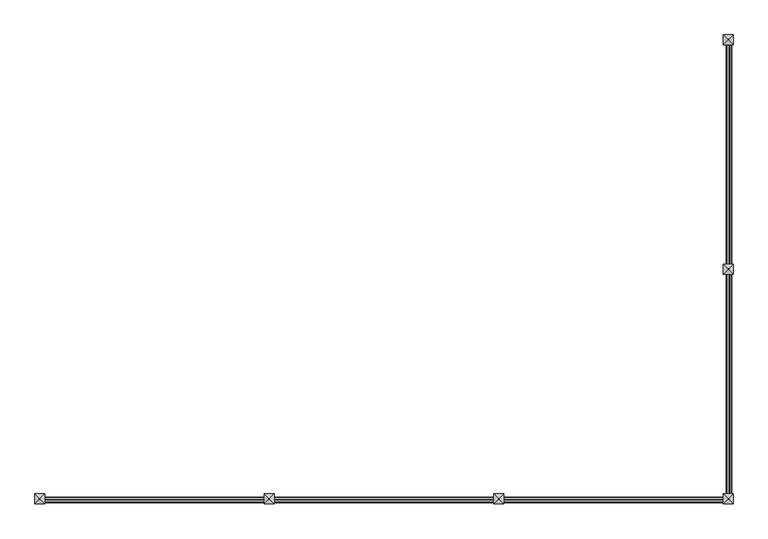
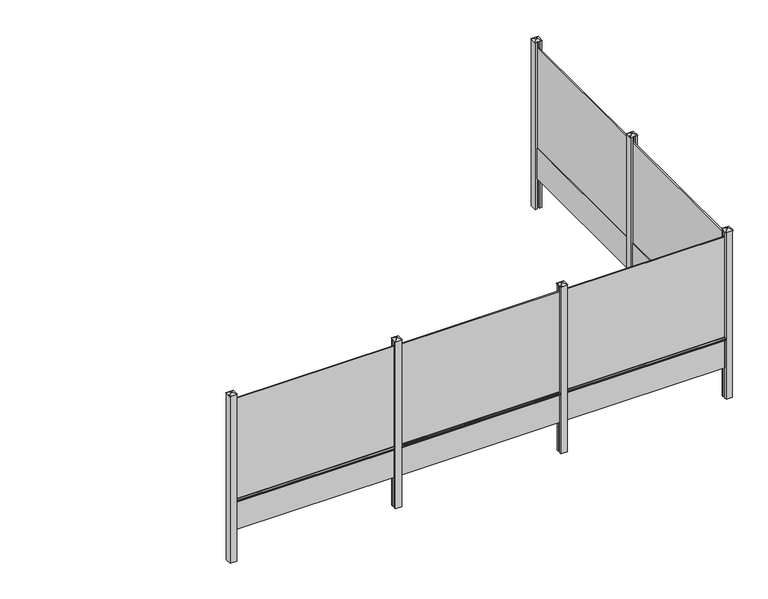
"""IFC4 building model written with IfcOpenShell, lengths in millimetres: railing geometry, Mehat - Railing - Plaque de Soubassement - Classique pour clôture rigide - 252.5x50x3.8/1.9 cm."""

from ifc_helpers import new_model, si_unit, point, frame, frame_2d, origin, origin_with_axes, place, context, project, spatial, polyline, circle_curve, trimmed, segment, composite_curve, outline, extrude, faceted_brep, source, transform, mapped, element, save


def railing_939d0e2e(model_context):
    return source(origin(), model_context, "Body", "SolidModel", [
        extrude(outline(polyline([(167896.2516516, -11002.4943936), (167879.2516516, -11002.4943936), (167879.2516516, -8477.4943936), (167896.2516516, -8477.4943936), (167896.2516516, -11002.4943936)])), frame((0.0, 0.0, 500.0), z_axis=(0.0, 0.0, 1.0), x_axis=(1.0, 0.0, 0.0)), (0.0, 0.0, 1.0), 1650.0),
        extrude(outline(polyline([(167868.7516516, -8477.4943936), (167887.7516516, -8477.4943936), (167906.7516516, -8502.4943936), (167906.7516516, -10977.4943936), (167887.7516516, -11002.4943936), (167868.7516516, -11002.4943936), (167868.7516516, -8477.4943936)])), origin_with_axes(), (0.0, 0.0, 1.0), 500.0),
        extrude(outline(composite_curve([segment(polyline([(460.0, 167906.7516516), (467.1937129, 167928.3327905)]), True, "CONTINUOUS"), segment(trimmed(circle_curve(frame_2d((471.9371294, 167926.7516516)), 5.0), [point((467.1937129, 167928.3327905))], [point((471.9371294, 167931.7516516))], False, "CARTESIAN"), True, "CONTINUOUS"), segment(polyline([(471.9371294, 167931.7516516), (488.0628706, 167931.7516516)]), True, "CONTINUOUS"), segment(trimmed(circle_curve(frame_2d((488.0628706, 167926.7516516)), 5.0), [point((488.0628706, 167931.7516516))], [point((492.8062871, 167928.3327905))], False, "CARTESIAN"), True, "CONTINUOUS"), segment(polyline([(492.8062871, 167928.3327905), (500.0, 167906.7516516), (460.0, 167906.7516516)]), True, "CONTINUOUS")], self_intersect=False)), frame((0.0, -10977.4943936, 0.0), z_axis=(0.0, 1.0, 0.0), x_axis=(0.0, 0.0, 1.0)), (0.0, 0.0, 1.0), 2475.0),
        extrude(outline(polyline([(167937.7516516, -11077.4943936), (167906.7516516, -11077.4943936), (167906.7516516, -11052.4943936), (167868.7516516, -11052.4943936), (167868.7516516, -11077.4943936), (167837.7516516, -11077.4943936), (167837.7516516, -10977.4943936), (167868.7516516, -10977.4943936), (167868.7516516, -11002.4943936), (167906.7516516, -11002.4943936), (167906.7516516, -10977.4943936), (167937.7516516, -10977.4943936), (167937.7516516, -11077.4943936)])), frame((0.0, 0.0, -500.0), z_axis=(0.0, 0.0, 1.0), x_axis=(1.0, 0.0, 0.0)), (0.0, 0.0, 1.0), 2750.0),
        faceted_brep([(167881.3471055, -11021.1443936, 2275.4), (167881.3471055, -11033.8443936, 2275.4), (167894.0471055, -11033.8443936, 2275.4), (167894.0471055, -11021.1443936, 2275.4), (167831.4016516, -10971.1443936, 2250.0), (167944.1016516, -10971.1443936, 2250.0), (167944.1016516, -11083.8443936, 2250.0), (167831.4016516, -11083.8443936, 2250.0)], [[[0, 1, 2, 3]], [[4, 5, 6, 7]], [[4, 0, 3, 5]], [[5, 3, 2, 6]], [[6, 2, 1, 7]], [[7, 1, 0, 4]]]),
        extrude(outline(polyline([(167896.2516516, -13577.4943936), (167879.2516516, -13577.4943936), (167879.2516516, -11052.4943936), (167896.2516516, -11052.4943936), (167896.2516516, -13577.4943936)])), frame((0.0, 0.0, 500.0), z_axis=(0.0, 0.0, 1.0), x_axis=(1.0, 0.0, 0.0)), (0.0, 0.0, 1.0), 1650.0),
        extrude(outline(polyline([(167868.7516516, -11052.4943936), (167887.7516516, -11052.4943936), (167906.7516516, -11077.4943936), (167906.7516516, -13552.4943936), (167887.7516516, -13577.4943936), (167868.7516516, -13577.4943936), (167868.7516516, -11052.4943936)])), origin_with_axes(), (0.0, 0.0, 1.0), 500.0),
        extrude(outline(composite_curve([segment(polyline([(460.0, 167906.7516516), (467.1937129, 167928.3327905)]), True, "CONTINUOUS"), segment(trimmed(circle_curve(frame_2d((471.9371294, 167926.7516516)), 5.0), [point((467.1937129, 167928.3327905))], [point((471.9371294, 167931.7516516))], False, "CARTESIAN"), True, "CONTINUOUS"), segment(polyline([(471.9371294, 167931.7516516), (488.0628706, 167931.7516516)]), True, "CONTINUOUS"), segment(trimmed(circle_curve(frame_2d((488.0628706, 167926.7516516)), 5.0), [point((488.0628706, 167931.7516516))], [point((492.8062871, 167928.3327905))], False, "CARTESIAN"), True, "CONTINUOUS"), segment(polyline([(492.8062871, 167928.3327905), (500.0, 167906.7516516), (460.0, 167906.7516516)]), True, "CONTINUOUS")], self_intersect=False)), frame((0.0, -13552.4943936, 0.0), z_axis=(0.0, 1.0, 0.0), x_axis=(0.0, 0.0, 1.0)), (0.0, 0.0, 1.0), 2475.0),
        extrude(outline(polyline([(165337.7516516, -13610.9943936), (165337.7516516, -13593.9943936), (167862.7516516, -13593.9943936), (167862.7516516, -13610.9943936), (165337.7516516, -13610.9943936)])), frame((0.0, 0.0, 500.0), z_axis=(0.0, 0.0, 1.0), x_axis=(1.0, 0.0, 0.0)), (0.0, 0.0, 1.0), 1650.0),
        extrude(outline(polyline([(167862.7516516, -13583.4943936), (167862.7516516, -13602.4943936), (167837.7516516, -13621.4943936), (165362.7516516, -13621.4943936), (165337.7516516, -13602.4943936), (165337.7516516, -13583.4943936), (167862.7516516, -13583.4943936)])), origin_with_axes(), (0.0, 0.0, 1.0), 500.0),
        extrude(outline(composite_curve([segment(polyline([(-13621.4943936, 460.0), (-13643.0755325, 467.1937129)]), True, "CONTINUOUS"), segment(trimmed(circle_curve(frame_2d((-13641.4943936, 471.9371294)), 5.0), [point((-13643.0755325, 467.1937129))], [point((-13646.4943936, 471.9371294))], False, "CARTESIAN"), True, "CONTINUOUS"), segment(polyline([(-13646.4943936, 471.9371294), (-13646.4943936, 488.0628706)]), True, "CONTINUOUS"), segment(trimmed(circle_curve(frame_2d((-13641.4943936, 488.0628706)), 5.0), [point((-13646.4943936, 488.0628706))], [point((-13643.0755325, 492.8062871))], False, "CARTESIAN"), True, "CONTINUOUS"), segment(polyline([(-13643.0755325, 492.8062871), (-13621.4943936, 500.0), (-13621.4943936, 460.0)]), True, "CONTINUOUS")], self_intersect=False)), frame((165362.7516516, 0.0, 0.0), z_axis=(1.0, 0.0, 0.0), x_axis=(0.0, 1.0, 0.0)), (0.0, 0.0, 1.0), 2475.0),
        extrude(outline(polyline([(165262.7516516, -13652.4943936), (165262.7516516, -13621.4943936), (165287.7516516, -13621.4943936), (165287.7516516, -13583.4943936), (165262.7516516, -13583.4943936), (165262.7516516, -13552.4943936), (165362.7516516, -13552.4943936), (165362.7516516, -13583.4943936), (165337.7516516, -13583.4943936), (165337.7516516, -13621.4943936), (165362.7516516, -13621.4943936), (165362.7516516, -13652.4943936), (165262.7516516, -13652.4943936)])), frame((0.0, 0.0, -500.0), z_axis=(0.0, 0.0, 1.0), x_axis=(1.0, 0.0, 0.0)), (0.0, 0.0, 1.0), 2750.0),
        faceted_brep([(165319.1016516, -13596.0898475, 2275.4), (165306.4016516, -13596.0898475, 2275.4), (165306.4016516, -13608.7898475, 2275.4), (165319.1016516, -13608.7898475, 2275.4), (165369.1016516, -13546.1443936, 2250.0), (165369.1016516, -13658.8443936, 2250.0), (165256.4016516, -13658.8443936, 2250.0), (165256.4016516, -13546.1443936, 2250.0)], [[[0, 1, 2, 3]], [[4, 5, 6, 7]], [[4, 0, 3, 5]], [[5, 3, 2, 6]], [[6, 2, 1, 7]], [[7, 1, 0, 4]]]),
        extrude(outline(polyline([(162762.7516516, -13610.9943936), (162762.7516516, -13593.9943936), (165287.7516516, -13593.9943936), (165287.7516516, -13610.9943936), (162762.7516516, -13610.9943936)])), frame((0.0, 0.0, 500.0), z_axis=(0.0, 0.0, 1.0), x_axis=(1.0, 0.0, 0.0)), (0.0, 0.0, 1.0), 1650.0),
        extrude(outline(polyline([(165287.7516516, -13583.4943936), (165287.7516516, -13602.4943936), (165262.7516516, -13621.4943936), (162787.7516516, -13621.4943936), (162762.7516516, -13602.4943936), (162762.7516516, -13583.4943936), (165287.7516516, -13583.4943936)])), origin_with_axes(), (0.0, 0.0, 1.0), 500.0),
        extrude(outline(composite_curve([segment(polyline([(-13621.4943936, 460.0), (-13643.0755325, 467.1937129)]), True, "CONTINUOUS"), segment(trimmed(circle_curve(frame_2d((-13641.4943936, 471.9371294)), 5.0), [point((-13643.0755325, 467.1937129))], [point((-13646.4943936, 471.9371294))], False, "CARTESIAN"), True, "CONTINUOUS"), segment(polyline([(-13646.4943936, 471.9371294), (-13646.4943936, 488.0628706)]), True, "CONTINUOUS"), segment(trimmed(circle_curve(frame_2d((-13641.4943936, 488.0628706)), 5.0), [point((-13646.4943936, 488.0628706))], [point((-13643.0755325, 492.8062871))], False, "CARTESIAN"), True, "CONTINUOUS"), segment(polyline([(-13643.0755325, 492.8062871), (-13621.4943936, 500.0), (-13621.4943936, 460.0)]), True, "CONTINUOUS")], self_intersect=False)), frame((162787.7516516, 0.0, 0.0), z_axis=(1.0, 0.0, 0.0), x_axis=(0.0, 1.0, 0.0)), (0.0, 0.0, 1.0), 2475.0),
        extrude(outline(polyline([(162687.7516516, -13652.4943936), (162687.7516516, -13621.4943936), (162712.7516516, -13621.4943936), (162712.7516516, -13583.4943936), (162687.7516516, -13583.4943936), (162687.7516516, -13552.4943936), (162787.7516516, -13552.4943936), (162787.7516516, -13583.4943936), (162762.7516516, -13583.4943936), (162762.7516516, -13621.4943936), (162787.7516516, -13621.4943936), (162787.7516516, -13652.4943936), (162687.7516516, -13652.4943936)])), frame((0.0, 0.0, -500.0), z_axis=(0.0, 0.0, 1.0), x_axis=(1.0, 0.0, 0.0)), (0.0, 0.0, 1.0), 2750.0),
        faceted_brep([(162744.1016516, -13596.0898475, 2275.4), (162731.4016516, -13596.0898475, 2275.4), (162731.4016516, -13608.7898475, 2275.4), (162744.1016516, -13608.7898475, 2275.4), (162794.1016516, -13546.1443936, 2250.0), (162794.1016516, -13658.8443936, 2250.0), (162681.4016516, -13658.8443936, 2250.0), (162681.4016516, -13546.1443936, 2250.0)], [[[0, 1, 2, 3]], [[4, 5, 6, 7]], [[4, 0, 3, 5]], [[5, 3, 2, 6]], [[6, 2, 1, 7]], [[7, 1, 0, 4]]]),
        extrude(outline(polyline([(160187.7516516, -13610.9943936), (160187.7516516, -13593.9943936), (162712.7516516, -13593.9943936), (162712.7516516, -13610.9943936), (160187.7516516, -13610.9943936)])), frame((0.0, 0.0, 500.0), z_axis=(0.0, 0.0, 1.0), x_axis=(1.0, 0.0, 0.0)), (0.0, 0.0, 1.0), 1650.0),
        extrude(outline(polyline([(162712.7516516, -13583.4943936), (162712.7516516, -13602.4943936), (162687.7516516, -13621.4943936), (160212.7516516, -13621.4943936), (160187.7516516, -13602.4943936), (160187.7516516, -13583.4943936), (162712.7516516, -13583.4943936)])), origin_with_axes(), (0.0, 0.0, 1.0), 500.0),
        extrude(outline(composite_curve([segment(polyline([(-13621.4943936, 460.0), (-13643.0755325, 467.1937129)]), True, "CONTINUOUS"), segment(trimmed(circle_curve(frame_2d((-13641.4943936, 471.9371294)), 5.0), [point((-13643.0755325, 467.1937129))], [point((-13646.4943936, 471.9371294))], False, "CARTESIAN"), True, "CONTINUOUS"), segment(polyline([(-13646.4943936, 471.9371294), (-13646.4943936, 488.0628706)]), True, "CONTINUOUS"), segment(trimmed(circle_curve(frame_2d((-13641.4943936, 488.0628706)), 5.0), [point((-13646.4943936, 488.0628706))], [point((-13643.0755325, 492.8062871))], False, "CARTESIAN"), True, "CONTINUOUS"), segment(polyline([(-13643.0755325, 492.8062871), (-13621.4943936, 500.0), (-13621.4943936, 460.0)]), True, "CONTINUOUS")], self_intersect=False)), frame((160212.7516516, 0.0, 0.0), z_axis=(1.0, 0.0, 0.0), x_axis=(0.0, 1.0, 0.0)), (0.0, 0.0, 1.0), 2475.0),
        extrude(outline(polyline([(167837.7516516, -13652.4943936), (167837.7516516, -13621.4943936), (167862.7516516, -13621.4943936), (167862.7516516, -13583.4943936), (167837.7516516, -13583.4943936), (167837.7516516, -13552.4943936), (167868.7516516, -13552.4943936), (167868.7516516, -13577.4943936), (167906.7516516, -13577.4943936), (167906.7516516, -13552.4943936), (167937.7516516, -13552.4943936), (167937.7516516, -13652.4943936), (167837.7516516, -13652.4943936)])), frame((0.0, 0.0, -500.0), z_axis=(0.0, 0.0, 1.0), x_axis=(1.0, 0.0, 0.0)), (0.0, 0.0, 1.0), 2750.0),
        faceted_brep([(167894.1016516, -13596.0898475, 2275.4), (167881.4016516, -13596.0898475, 2275.4), (167881.4016516, -13608.7898475, 2275.4), (167894.1016516, -13608.7898475, 2275.4), (167944.1016516, -13546.1443936, 2250.0), (167944.1016516, -13658.8443936, 2250.0), (167831.4016516, -13658.8443936, 2250.0), (167831.4016516, -13546.1443936, 2250.0)], [[[0, 1, 2, 3]], [[4, 5, 6, 7]], [[4, 0, 3, 5]], [[5, 3, 2, 6]], [[6, 2, 1, 7]], [[7, 1, 0, 4]]]),
        extrude(outline(polyline([(167937.7516516, -8502.4943936), (167906.7516516, -8502.4943936), (167906.7516516, -8477.4943936), (167868.7516516, -8477.4943936), (167868.7516516, -8502.4943936), (167837.7516516, -8502.4943936), (167837.7516516, -8402.4943936), (167937.7516516, -8402.4943936), (167937.7516516, -8502.4943936)])), frame((0.0, 0.0, -500.0), z_axis=(0.0, 0.0, 1.0), x_axis=(1.0, 0.0, 0.0)), (0.0, 0.0, 1.0), 2750.0),
        faceted_brep([(167881.3471055, -8446.1443936, 2275.4), (167881.3471055, -8458.8443936, 2275.4), (167894.0471055, -8458.8443936, 2275.4), (167894.0471055, -8446.1443936, 2275.4), (167831.4016516, -8396.1443936, 2250.0), (167944.1016516, -8396.1443936, 2250.0), (167944.1016516, -8508.8443936, 2250.0), (167831.4016516, -8508.8443936, 2250.0)], [[[0, 1, 2, 3]], [[4, 5, 6, 7]], [[4, 0, 3, 5]], [[5, 3, 2, 6]], [[6, 2, 1, 7]], [[7, 1, 0, 4]]]),
        extrude(outline(polyline([(160112.7516516, -13652.4943936), (160112.7516516, -13552.4943936), (160212.7516516, -13552.4943936), (160212.7516516, -13583.4943936), (160187.7516516, -13583.4943936), (160187.7516516, -13621.4943936), (160212.7516516, -13621.4943936), (160212.7516516, -13652.4943936), (160112.7516516, -13652.4943936)])), frame((0.0, 0.0, -500.0), z_axis=(0.0, 0.0, 1.0), x_axis=(1.0, 0.0, 0.0)), (0.0, 0.0, 1.0), 2750.0),
        faceted_brep([(160169.1016516, -13596.0898475, 2275.4), (160156.4016516, -13596.0898475, 2275.4), (160156.4016516, -13608.7898475, 2275.4), (160169.1016516, -13608.7898475, 2275.4), (160219.1016516, -13546.1443936, 2250.0), (160219.1016516, -13658.8443936, 2250.0), (160106.4016516, -13658.8443936, 2250.0), (160106.4016516, -13546.1443936, 2250.0)], [[[0, 1, 2, 3]], [[4, 5, 6, 7]], [[4, 0, 3, 5]], [[5, 3, 2, 6]], [[6, 2, 1, 7]], [[7, 1, 0, 4]]]),
    ])


if __name__ == "__main__":
    model = new_model("IFC4")
    model_context = context("Model", 3, world=origin())
    ifc_project = project(units=[si_unit("LENGTHUNIT", "METRE", prefix="MILLI")], contexts=[model_context])
    site = spatial("IfcSite", under=ifc_project)
    building = spatial("IfcBuilding", under=site)
    placement = place(None, origin())
    railing_shape = railing_939d0e2e(model_context)
    element("IfcRailing", 1, ObjectType="Mehat - Railing - Plaque de Soubassement - Classique pour clôture rigide - 252.5x50x3.8/1.9 cm", at=placement, inside=building, context=model_context, shape_type="MappedRepresentation", body=[
        mapped(railing_shape, transform((0.0, 0.0, 0.0), x_axis=(1.0, 0.0, 0.0), y_axis=(0.0, 1.0, 0.0), z_axis=(0.0, 0.0, 1.0))),
    ])
    save(model, "model.ifc")
